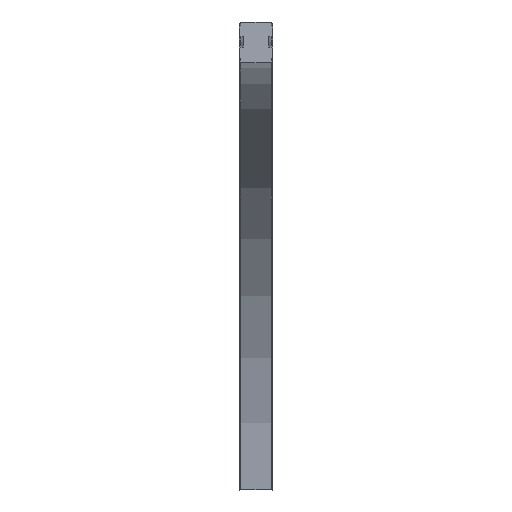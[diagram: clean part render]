
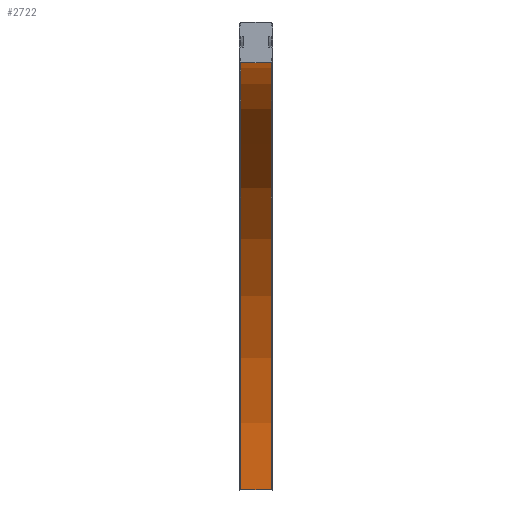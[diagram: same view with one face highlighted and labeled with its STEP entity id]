
A CAD part, left-side view. The second image highlights one B-rep face of the part: STEP entity #2722.
In plain terms, the highlighted cylindrical face has radius 820 mm (diameter 1640 mm), a partial arc.
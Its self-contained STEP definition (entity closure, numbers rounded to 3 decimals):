
#2664=CARTESIAN_POINT('',(820.,29.,-898.));
#2665=VERTEX_POINT('',#2664);
#2672=CARTESIAN_POINT('',(0.0,29.,-78.));
#2673=VERTEX_POINT('',#2672);
#2674=CARTESIAN_POINT('',(0.0,29.,-898.0));
#2675=DIRECTION('',(0.0,1.0,0.0));
#2676=DIRECTION('',(0.0,0.0,1.0));
#2677=AXIS2_PLACEMENT_3D('',#2674,#2675,#2676);
#2678=CIRCLE('',#2677,820.);
#2679=EDGE_CURVE('',#2673,#2665,#2678,.T.);
#2691=CARTESIAN_POINT('',(0.0,0.,-898.0));
#2692=DIRECTION('',(0.0,1.0,0.0));
#2693=DIRECTION('',(0.0,0.0,1.0));
#2694=AXIS2_PLACEMENT_3D('',#2691,#2692,#2693);
#2695=CYLINDRICAL_SURFACE('',#2694,820.);
#2696=CARTESIAN_POINT('',(820.,-29.,-898.));
#2697=VERTEX_POINT('',#2696);
#2698=CARTESIAN_POINT('',(820.,29.,-898.));
#2699=DIRECTION('',(0.0,-1.0,0.0));
#2700=VECTOR('',#2699,58.);
#2701=LINE('',#2698,#2700);
#2702=EDGE_CURVE('',#2665,#2697,#2701,.T.);
#2703=ORIENTED_EDGE('',*,*,#2702,.T.);
#2704=CARTESIAN_POINT('',(0.0,-29.,-78.));
#2705=VERTEX_POINT('',#2704);
#2706=CARTESIAN_POINT('',(0.0,-29.,-898.0));
#2707=DIRECTION('',(0.0,1.0,0.0));
#2708=DIRECTION('',(0.0,0.0,1.0));
#2709=AXIS2_PLACEMENT_3D('',#2706,#2707,#2708);
#2710=CIRCLE('',#2709,820.);
#2711=EDGE_CURVE('',#2705,#2697,#2710,.T.);
#2712=ORIENTED_EDGE('',*,*,#2711,.F.);
#2713=CARTESIAN_POINT('',(0.0,-29.,-78.));
#2714=DIRECTION('',(0.0,1.0,0.0));
#2715=VECTOR('',#2714,58.);
#2716=LINE('',#2713,#2715);
#2717=EDGE_CURVE('',#2705,#2673,#2716,.T.);
#2718=ORIENTED_EDGE('',*,*,#2717,.T.);
#2719=ORIENTED_EDGE('',*,*,#2679,.T.);
#2720=EDGE_LOOP('',(#2703,#2712,#2718,#2719));
#2721=FACE_OUTER_BOUND('',#2720,.T.);
#2722=ADVANCED_FACE('',(#2721),#2695,.F.);
